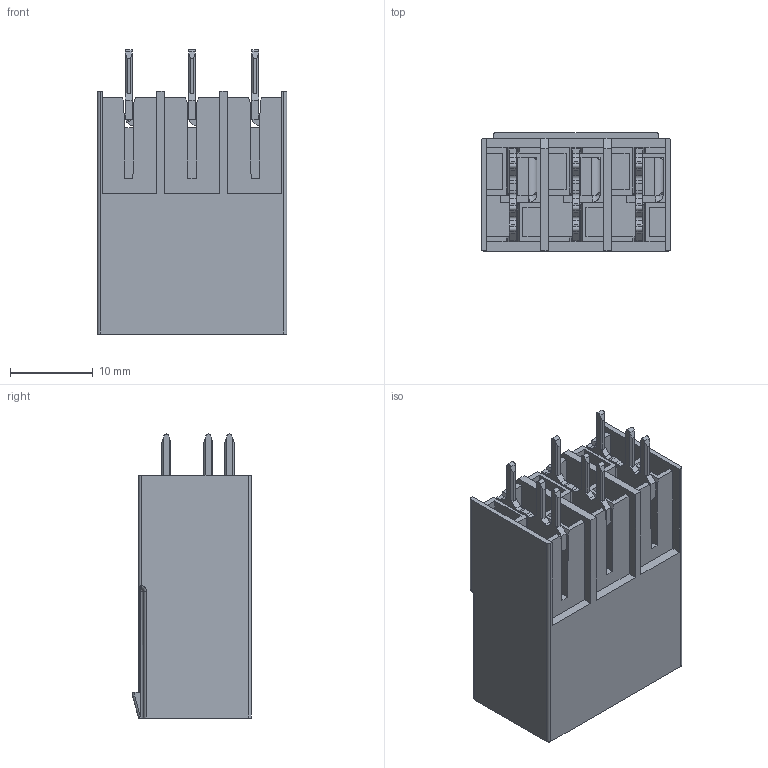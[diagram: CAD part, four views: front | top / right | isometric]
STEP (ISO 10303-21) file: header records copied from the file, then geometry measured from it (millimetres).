
FILE_DESCRIPTION((''),'2;1');
FILE_NAME('VC030051A000G_SW0001','2019-05-22T',('zhenbing.lai'),(''),'CREO PARAMETRIC BY PTC INC, 2016260','CREO PARAMETRIC BY PTC INC, 2016260','');
FILE_SCHEMA(('CONFIG_CONTROL_DESIGN'));
Length unit declared in the file: millimetre
Products named in the file (1): VC030051A000G_SW0001
Bounding box: 22.86 x 14.3 x 34.25 mm (x, y, z)
Volume: 3931.6 mm3; surface area: 7581.7 mm2
Topology: 1 solids, 1 shells, 598 faces, 1704 edges, 1114 vertices
Faces by surface type: plane 433, cylinder 141, bspline 17, torus 4, sphere 3
Entity records: 20095 total; most frequent: CARTESIAN_POINT 4387, ORIENTED_EDGE 3402, DIRECTION 3116, EDGE_CURVE 1701, VECTOR 1336, LINE 1336, VERTEX_POINT 1114, AXIS2_PLACEMENT_3D 890
